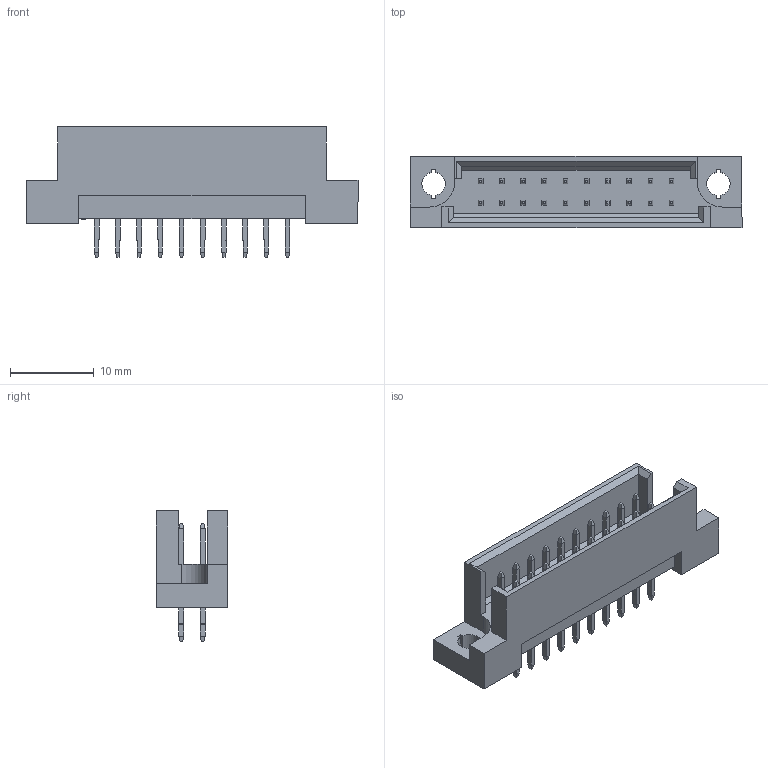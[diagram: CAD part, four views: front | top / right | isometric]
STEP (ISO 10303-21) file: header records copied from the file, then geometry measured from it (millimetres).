
FILE_DESCRIPTION (( 'STEP AP214' ), '1' );
FILE_NAME ('9001-37201C00L1A.STEP', '2020-02-12T03:58:10', ( 'ADMIN' ), ( '' ), 'SwSTEP 2.0', 'SolidWorks 2011', '' );
FILE_SCHEMA (( 'AUTOMOTIVE_DESIGN' ));
Length unit declared in the file: millimetre
Products named in the file (4): 9001-37201C00L1A; 9001-P37Y2; 888888888888888888; 9001-37201C00A
Assembly tree (22 placements, depth 3):
  9001-37201C00L1A
    888888888888888888  x20
    9001-37201C00A
      9001-P37Y2
Bounding box: 39.76 x 8.6 x 15.6 mm (x, y, z)
Volume: 1847.3 mm3; surface area: 2590.8 mm2
Topology: 41 solids, 41 shells, 719 faces, 1735 edges, 1102 vertices
Faces by surface type: plane 591, cylinder 128
Entity records: 8227 total; most frequent: CARTESIAN_POINT 1074, ORIENTED_EDGE 1038, DIRECTION 973, EDGE_CURVE 519, LINE 491, VECTOR 491, VERTEX_POINT 342, AXIS2_PLACEMENT_3D 241
